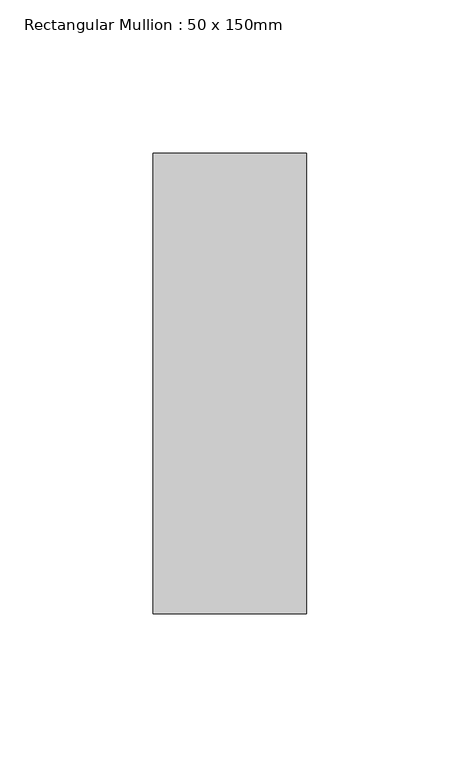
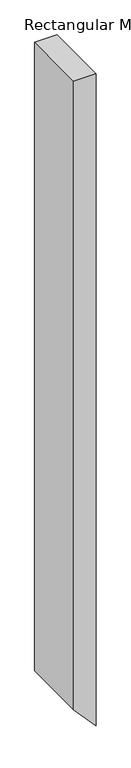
"""IFC4 building model written with IfcOpenShell, lengths in millimetres: member geometry, Rectangular Mullion : 50 x 150mm."""

from ifc_helpers import new_model, si_unit, frame, origin, place, context, project, spatial, polyline, outline, extrude, source, transform, mapped, element, save


def rectangular_mullion_50_x_150mm_62ee6869(model_context):
    return source(origin(), model_context, "Body", "SweptSolid", [
        extrude(outline(polyline([(0.0, 0.0), (0.0, -50.0), (-1474.1327582, -50.0), (-1529.4123655, 0.0), (0.0, 0.0)])), frame((0.0, -75.0, 0.0), z_axis=(0.0, 1.0, 0.0), x_axis=(0.0, 0.0, 1.0)), (0.0, 0.0, 1.0), 150.0),
    ])


if __name__ == "__main__":
    model = new_model("IFC4")
    model_context = context("Model", 3, world=origin())
    ifc_project = project(units=[si_unit("LENGTHUNIT", "METRE", prefix="MILLI")], contexts=[model_context])
    site = spatial("IfcSite", under=ifc_project)
    building = spatial("IfcBuilding", under=site)
    placement = place(None, origin())
    rectangular_mullion_50_x_150mm_shape = rectangular_mullion_50_x_150mm_62ee6869(model_context)
    element("IfcMember", 1, ObjectType="Rectangular Mullion : 50 x 150mm", at=placement, inside=building, context=model_context, shape_type="MappedRepresentation", body=[
        mapped(rectangular_mullion_50_x_150mm_shape, transform((0.0, 0.0, 0.0), x_axis=(1.0, 0.0, 0.0), y_axis=(0.0, 1.0, 0.0), z_axis=(0.0, 0.0, 1.0))),
    ])
    save(model, "model.ifc")
